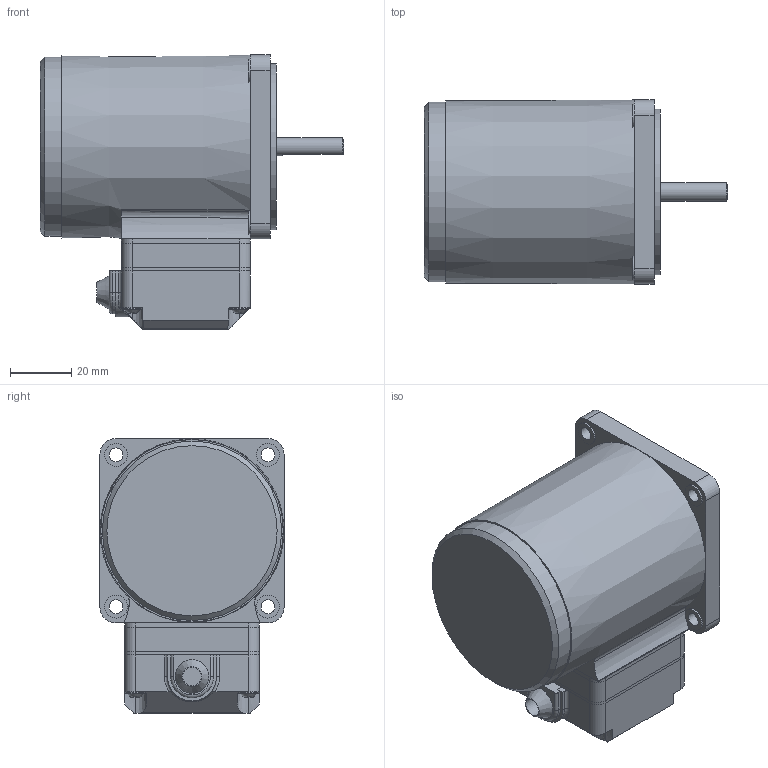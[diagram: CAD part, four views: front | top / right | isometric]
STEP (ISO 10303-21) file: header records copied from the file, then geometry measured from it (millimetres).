
FILE_DESCRIPTION((''),'2;1');
FILE_NAME('D:\김성묵\업무폴더\개발 파일\프로젝트 개발 AB등급\AC표준형 개발자료\90각 이하 표준형 개발\도면작성 자료\3D 도면\홈페이지용 3D 파일\6W MOTOR\TBOX TYPE\S6I06D_T.stp','2015-03-26T15:44:43',('smkim'),(''),'Autodesk Inventor 2012','Autodesk Inventor 2012','');
FILE_SCHEMA(('AUTOMOTIVE_DESIGN { 1 0 10303 214 1 1 1 1 }'));
Length unit declared in the file: millimetre
Products named in the file (8): S6I06D_TCE; S6I06GㅁTCE; 6W_T-BOX; 0351002403 70각 단자 BOX 하; 0351002301 70각 단자 BOX 상; 0409000703 CORD BUSH G; 552303400-M3XL34; S6_HOUSNG A_D
Assembly tree (10 placements, depth 3):
  S6I06D_TCE
    S6I06GㅁTCE
    6W_T-BOX
      0351002403 70각 단자 BOX 하
      0351002301 70각 단자 BOX 상
      0409000703 CORD BUSH G
      552303400-M3XL34  x4
    S6_HOUSNG A_D
Bounding box: 99 x 60 x 89.5 mm (x, y, z)
Volume: 251564.1 mm3; surface area: 49494.8 mm2
Topology: 11 solids, 11 shells, 341 faces, 880 edges, 578 vertices
Faces by surface type: plane 167, cylinder 115, bspline 28, cone 16, torus 15
Full cylindrical faces by diameter (mm): 3 x4, 3.5 x4, 3.8 x4, 4.5 x4, 5.6 x4, 6 x1, 7.5 x4, 8 x3, 25 x1, 54 x1, 58.5 x1
Entity records: 9454 total; most frequent: CARTESIAN_POINT 2388, DIRECTION 1433, ORIENTED_EDGE 1374, EDGE_CURVE 687, AXIS2_PLACEMENT_3D 542, VERTEX_POINT 475, EDGE_LOOP 368, VECTOR 349
